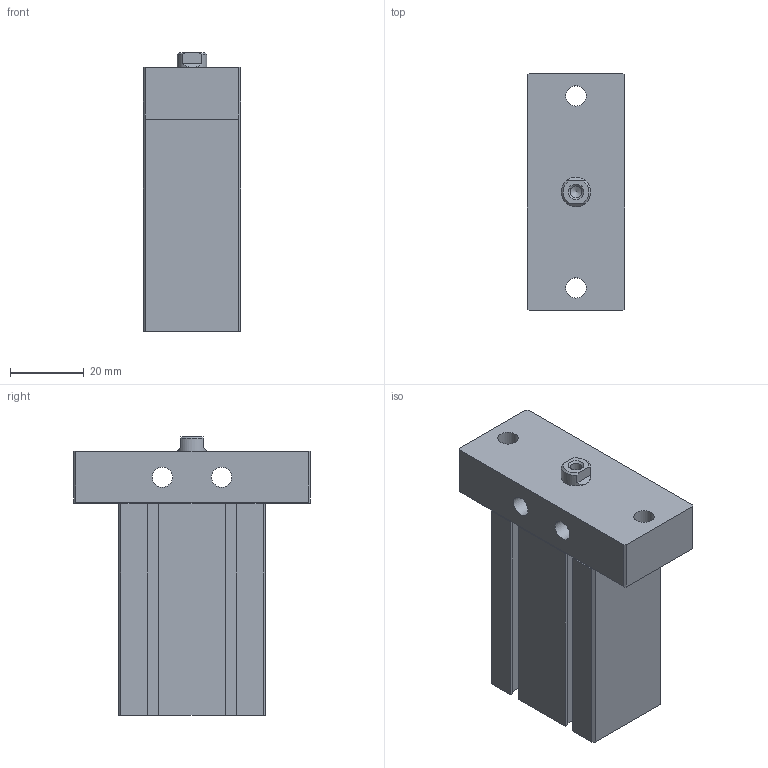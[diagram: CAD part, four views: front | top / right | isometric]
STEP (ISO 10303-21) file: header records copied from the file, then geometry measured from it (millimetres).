
FILE_DESCRIPTION((''),'2;1');
FILE_NAME('J:\3D電子目錄\氣缸\ND\ND\ND20-F\ND20x30-F.stp','2008-03-12T14:05:12',('66-2f-008'),(''),'Autodesk Inventor 11','Autodesk Inventor 11','');
FILE_SCHEMA(('AUTOMOTIVE_DESIGN { 1 0 10303 214 1 1 1 1 }'));
Length unit declared in the file: millimetre
Products named in the file (1): ND20-F
Bounding box: 26.4 x 64 x 75.5 mm (x, y, z)
Volume: 75567.4 mm3; surface area: 19040 mm2
Topology: 2 solids, 2 shells, 112 faces, 300 edges, 193 vertices
Faces by surface type: plane 75, bspline 16, cylinder 12, cone 8, torus 1
Full cylindrical faces by diameter (mm): 1.5 x2, 5.5 x2, 13 x1, 21 x1
Entity records: 3478 total; most frequent: CARTESIAN_POINT 793, ORIENTED_EDGE 538, DIRECTION 514, EDGE_CURVE 269, VECTOR 210, LINE 210, VERTEX_POINT 187, EDGE_LOOP 154
